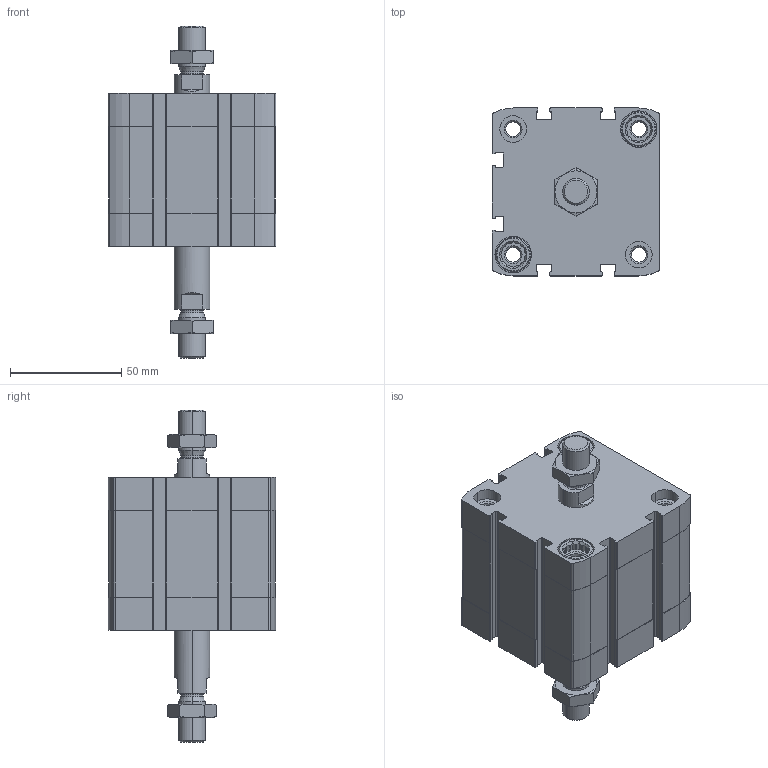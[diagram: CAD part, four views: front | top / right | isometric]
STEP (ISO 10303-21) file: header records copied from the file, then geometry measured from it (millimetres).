
FILE_DESCRIPTION (( 'STEP AP203' ), '1' );
FILE_NAME ('CCN63-20-P.STEP', '2020-06-22T19:01:25', ( '' ), ( '' ), 'SwSTEP 2.0', 'SolidWorks 2019', '' );
FILE_SCHEMA (( 'CONFIG_CONTROL_DESIGN' ));
Length unit declared in the file: millimetre
Products named in the file (1): CCN63-20-P
Bounding box: 75.5 x 75.5 x 149.4 mm (x, y, z)
Volume: 316150.5 mm3; surface area: 77821 mm2
Topology: 4 solids, 4 shells, 528 faces, 1396 edges, 908 vertices
Faces by surface type: plane 240, cylinder 220, cone 60, torus 8
Entity records: 17259 total; most frequent: CARTESIAN_POINT 3829, DIRECTION 2850, ORIENTED_EDGE 2792, EDGE_CURVE 1396, AXIS2_PLACEMENT_3D 1049, VERTEX_POINT 908, LINE 752, VECTOR 752
